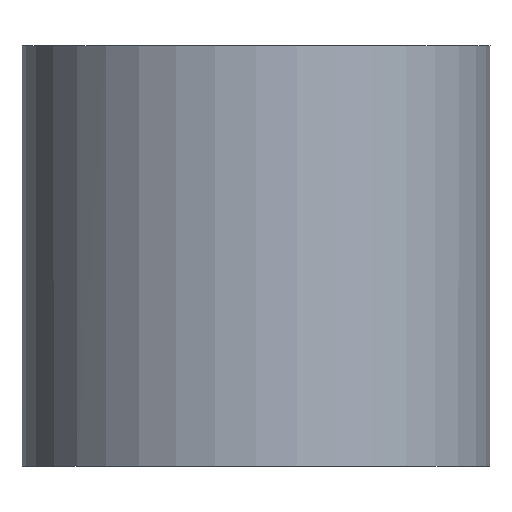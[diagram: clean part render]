
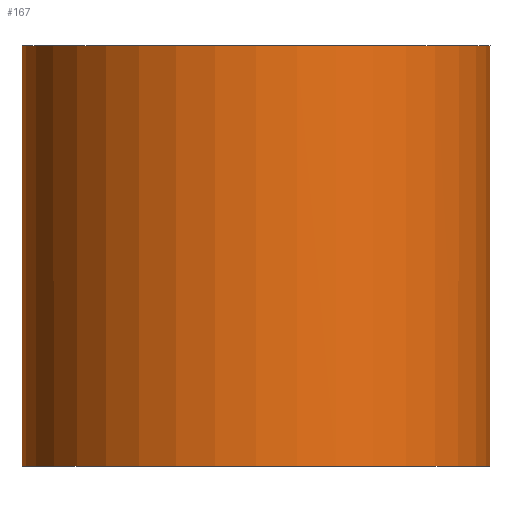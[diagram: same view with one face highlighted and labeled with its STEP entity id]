
A CAD part, left-side view. The second image highlights one B-rep face of the part: STEP entity #167.
In plain terms, the highlighted cylindrical face has radius 3.9 mm (diameter 7.8 mm), a full revolution.
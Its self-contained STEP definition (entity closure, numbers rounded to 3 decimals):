
#20=LINE('',#270,#31);
#26=LINE('',#285,#37);
#28=LINE('',#298,#39);
#31=VECTOR('',#218,10.);
#37=VECTOR('',#232,10.);
#39=VECTOR('',#248,3.9);
#43=CYLINDRICAL_SURFACE('',#198,3.9);
#51=FACE_OUTER_BOUND('',#62,.T.);
#62=EDGE_LOOP('',(#138,#139,#140,#141,#142,#143,#144,#145));
#71=CIRCLE('',#194,3.9);
#74=CIRCLE('',#199,3.9);
#75=CIRCLE('',#200,3.9);
#76=CIRCLE('',#201,3.9);
#79=VERTEX_POINT('',#266);
#81=VERTEX_POINT('',#269);
#85=VERTEX_POINT('',#281);
#86=VERTEX_POINT('',#283);
#89=VERTEX_POINT('',#295);
#90=VERTEX_POINT('',#297);
#95=EDGE_CURVE('',#81,#79,#20,.T.);
#103=EDGE_CURVE('',#85,#86,#26,.T.);
#104=EDGE_CURVE('',#86,#81,#71,.T.);
#108=EDGE_CURVE('',#89,#89,#74,.T.);
#109=EDGE_CURVE('',#89,#90,#28,.T.);
#110=EDGE_CURVE('',#90,#85,#75,.T.);
#111=EDGE_CURVE('',#79,#90,#76,.T.);
#138=ORIENTED_EDGE('',*,*,#108,.F.);
#139=ORIENTED_EDGE('',*,*,#109,.T.);
#140=ORIENTED_EDGE('',*,*,#110,.T.);
#141=ORIENTED_EDGE('',*,*,#103,.T.);
#142=ORIENTED_EDGE('',*,*,#104,.T.);
#143=ORIENTED_EDGE('',*,*,#95,.T.);
#144=ORIENTED_EDGE('',*,*,#111,.T.);
#145=ORIENTED_EDGE('',*,*,#109,.F.);
#167=ADVANCED_FACE('',(#51),#43,.T.);
#194=AXIS2_PLACEMENT_3D('',#287,#235,#236);
#198=AXIS2_PLACEMENT_3D('',#294,#244,#245);
#199=AXIS2_PLACEMENT_3D('',#296,#246,#247);
#200=AXIS2_PLACEMENT_3D('',#299,#249,#250);
#201=AXIS2_PLACEMENT_3D('',#300,#251,#252);
#218=DIRECTION('',(0.,0.,-1.));
#232=DIRECTION('',(0.,0.,1.));
#235=DIRECTION('center_axis',(0.,0.,1.));
#236=DIRECTION('ref_axis',(1.,0.,0.));
#244=DIRECTION('center_axis',(0.,0.,1.));
#245=DIRECTION('ref_axis',(1.,0.,0.));
#246=DIRECTION('center_axis',(0.,0.,1.));
#247=DIRECTION('ref_axis',(1.,0.,0.));
#248=DIRECTION('',(0.,0.,-1.));
#249=DIRECTION('center_axis',(0.,0.,1.));
#250=DIRECTION('ref_axis',(1.,0.,0.));
#251=DIRECTION('center_axis',(0.,0.,1.));
#252=DIRECTION('ref_axis',(1.,0.,0.));
#266=CARTESIAN_POINT('',(12.492,38.,0.));
#269=CARTESIAN_POINT('',(12.492,38.,2.));
#270=CARTESIAN_POINT('',(12.492,38.,0.));
#281=CARTESIAN_POINT('',(12.492,32.,0.));
#283=CARTESIAN_POINT('',(12.492,32.,2.));
#285=CARTESIAN_POINT('',(12.492,32.,0.));
#287=CARTESIAN_POINT('Origin',(10.,35.,2.));
#294=CARTESIAN_POINT('Origin',(10.,35.,0.));
#295=CARTESIAN_POINT('',(6.1,35.,7.));
#296=CARTESIAN_POINT('Origin',(10.,35.,7.));
#297=CARTESIAN_POINT('',(6.1,35.,0.));
#298=CARTESIAN_POINT('',(6.1,35.,0.));
#299=CARTESIAN_POINT('Origin',(10.,35.,0.));
#300=CARTESIAN_POINT('Origin',(10.,35.,0.));
